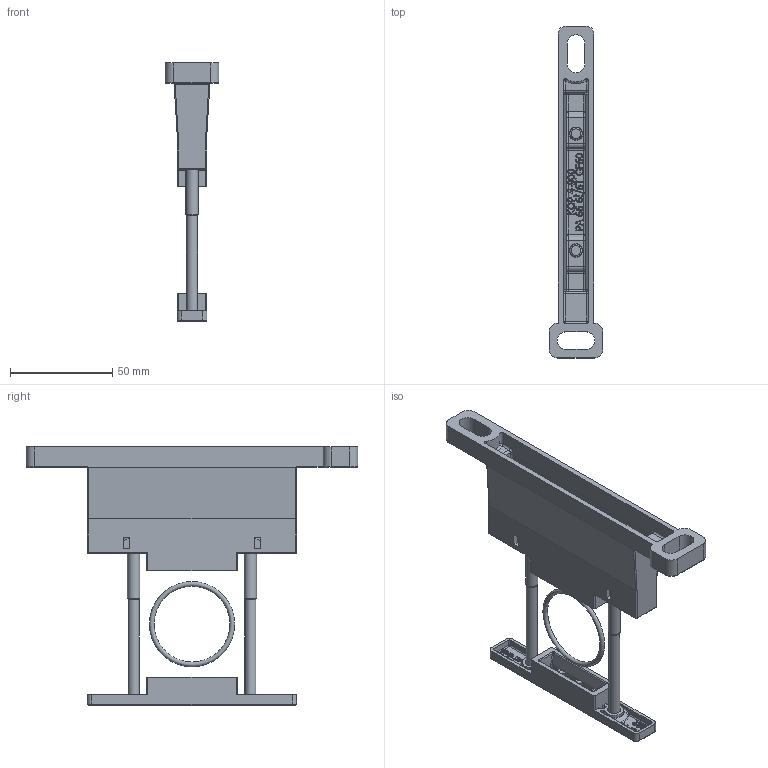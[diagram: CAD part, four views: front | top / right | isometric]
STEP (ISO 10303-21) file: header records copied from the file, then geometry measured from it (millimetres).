
FILE_DESCRIPTION((''),'2;1');
FILE_NAME('K:\ZEICHNG\webgrafik.intern\Air-Techniques Befestigungen und Behälter\step\KKOP.4W.stp','2013-06-21T08:28:40',('RJanz'),(''),'Autodesk Inventor 2013','Autodesk Inventor 2013','');
FILE_SCHEMA(('CONFIG_CONTROL_DESIGN'));
Length unit declared in the file: millimetre
Products named in the file (1): Bauteil1
Bounding box: 26 x 162 x 126 mm (x, y, z)
Volume: 56386.7 mm3; surface area: 43441.8 mm2
Topology: 3 solids, 3 shells, 1502 faces, 3948 edges, 2487 vertices
Faces by surface type: plane 551, bspline 466, cylinder 287, torus 94, sphere 64, cone 40
Full cylindrical faces by diameter (mm): 0.3 x2, 5.387 x2, 6 x5, 6.4 x2, 6.5 x4, 11.3 x2, 11.8 x2
Entity records: 51279 total; most frequent: CARTESIAN_POINT 16124, ORIENTED_EDGE 7712, DIRECTION 5670, EDGE_CURVE 3856, VERTEX_POINT 2472, VECTOR 1960, LINE 1960, AXIS2_PLACEMENT_3D 1855
